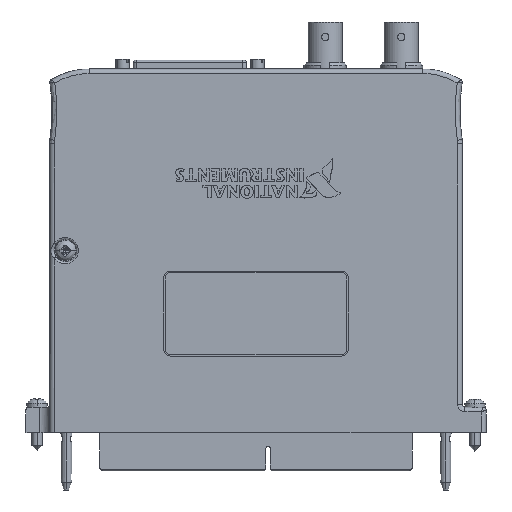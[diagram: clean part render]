
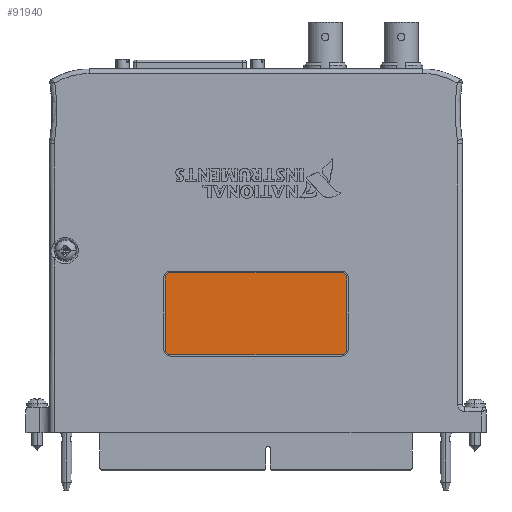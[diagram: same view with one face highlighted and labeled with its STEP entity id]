
A CAD part, left-side view. The second image highlights one B-rep face of the part: STEP entity #91940.
In plain terms, the highlighted planar face has unit normal (-1, 0, 0).
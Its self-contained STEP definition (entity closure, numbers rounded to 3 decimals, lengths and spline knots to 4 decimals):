
#29495=CARTESIAN_POINT('',(-0.394,0.938,1.699));
#29496=DIRECTION('',(-1.,0.,0.));
#29497=DIRECTION('',(0.,0.,1.));
#29498=AXIS2_PLACEMENT_3D('',#29495,#29496,#29497);
#29500=DIRECTION('',(0.,1.,0.));
#29501=VECTOR('',#29500,1.876);
#29502=CARTESIAN_POINT('',(-0.394,-0.938,1.761));
#29503=LINE('',#29502,#29501);
#29504=CARTESIAN_POINT('',(-0.394,-0.938,1.699));
#29505=DIRECTION('',(-1.,0.,0.));
#29506=DIRECTION('',(0.,-1.,0.));
#29507=AXIS2_PLACEMENT_3D('',#29504,#29505,#29506);
#29509=DIRECTION('',(0.,0.,1.));
#29510=VECTOR('',#29509,0.782);
#29511=CARTESIAN_POINT('',(-0.394,-1.,0.917));
#29512=LINE('',#29511,#29510);
#29513=CARTESIAN_POINT('',(-0.394,-0.938,0.917));
#29514=DIRECTION('',(-1.,0.,0.));
#29515=DIRECTION('',(0.,0.,-1.));
#29516=AXIS2_PLACEMENT_3D('',#29513,#29514,#29515);
#29518=DIRECTION('',(0.,-1.,0.));
#29519=VECTOR('',#29518,1.876);
#29520=CARTESIAN_POINT('',(-0.394,0.938,0.855));
#29521=LINE('',#29520,#29519);
#29522=CARTESIAN_POINT('',(-0.394,0.938,0.917));
#29523=DIRECTION('',(-1.,0.,0.));
#29524=DIRECTION('',(0.,1.,0.));
#29525=AXIS2_PLACEMENT_3D('',#29522,#29523,#29524);
#29527=DIRECTION('',(0.,0.,-1.));
#29528=VECTOR('',#29527,0.782);
#29529=CARTESIAN_POINT('',(-0.394,1.,1.699));
#29530=LINE('',#29529,#29528);
#55154=CARTESIAN_POINT('',(-0.394,0.938,1.761));
#55155=CARTESIAN_POINT('',(-0.394,1.,1.699));
#55156=VERTEX_POINT('',#55154);
#55157=VERTEX_POINT('',#55155);
#55158=CARTESIAN_POINT('',(-0.394,-1.,1.699));
#55159=CARTESIAN_POINT('',(-0.394,-0.938,1.761));
#55160=VERTEX_POINT('',#55158);
#55161=VERTEX_POINT('',#55159);
#55162=CARTESIAN_POINT('',(-0.394,-0.938,0.855));
#55163=CARTESIAN_POINT('',(-0.394,-1.,0.917));
#55164=VERTEX_POINT('',#55162);
#55165=VERTEX_POINT('',#55163);
#55166=CARTESIAN_POINT('',(-0.394,1.,0.917));
#55167=CARTESIAN_POINT('',(-0.394,0.938,0.855));
#55168=VERTEX_POINT('',#55166);
#55169=VERTEX_POINT('',#55167);
#91925=CARTESIAN_POINT('',(-0.394,-1.,1.761));
#91926=DIRECTION('',(-1.,0.,0.));
#91927=DIRECTION('',(0.,1.,0.));
#91928=AXIS2_PLACEMENT_3D('',#91925,#91926,#91927);
#91929=PLANE('',#91928);
#91930=ORIENTED_EDGE('',*,*,#91919,.F.);
#91931=ORIENTED_EDGE('',*,*,#91821,.F.);
#91932=ORIENTED_EDGE('',*,*,#91836,.F.);
#91933=ORIENTED_EDGE('',*,*,#91850,.F.);
#91934=ORIENTED_EDGE('',*,*,#91864,.F.);
#91935=ORIENTED_EDGE('',*,*,#91878,.F.);
#91936=ORIENTED_EDGE('',*,*,#91892,.F.);
#91937=ORIENTED_EDGE('',*,*,#91906,.F.);
#91938=EDGE_LOOP('',(#91930,#91931,#91932,#91933,#91934,#91935,#91936,#91937));
#91939=FACE_OUTER_BOUND('',#91938,.F.);
#91940=ADVANCED_FACE('',(#91939),#91929,.T.);
#29499=CIRCLE('',#29498,0.062);
#29508=CIRCLE('',#29507,0.062);
#29517=CIRCLE('',#29516,0.062);
#29526=CIRCLE('',#29525,0.062);
#91821=EDGE_CURVE('',#55161,#55156,#29503,.T.);
#91836=EDGE_CURVE('',#55160,#55161,#29508,.T.);
#91850=EDGE_CURVE('',#55165,#55160,#29512,.T.);
#91864=EDGE_CURVE('',#55164,#55165,#29517,.T.);
#91878=EDGE_CURVE('',#55169,#55164,#29521,.T.);
#91892=EDGE_CURVE('',#55168,#55169,#29526,.T.);
#91906=EDGE_CURVE('',#55157,#55168,#29530,.T.);
#91919=EDGE_CURVE('',#55156,#55157,#29499,.T.);
